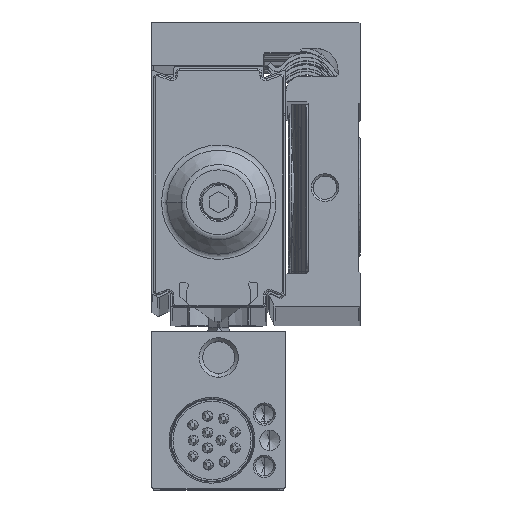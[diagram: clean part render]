
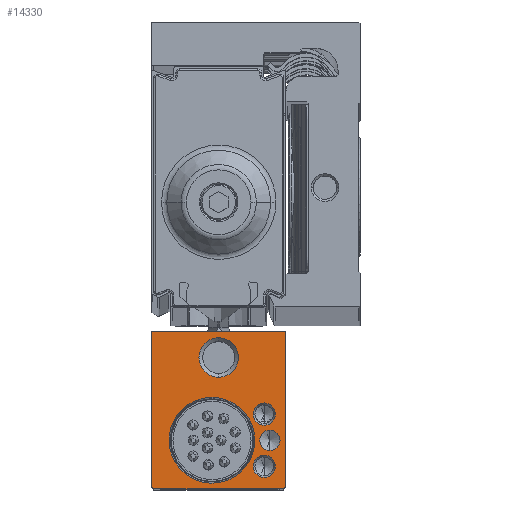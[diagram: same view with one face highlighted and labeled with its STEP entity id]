
A CAD part, top view. The second image highlights one B-rep face of the part: STEP entity #14330.
In plain terms, the highlighted planar face has unit normal (0, 0, 1).
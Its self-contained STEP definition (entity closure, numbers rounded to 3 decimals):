
#870=CARTESIAN_POINT('',(-8.372,-16.475,1.));
#880=VERTEX_POINT('',#870);
#1000=CARTESIAN_POINT('',(-8.372,-19.225,1.));
#1010=VERTEX_POINT('',#1000);
#1040=CARTESIAN_POINT('',(-8.372,-17.85,1.));
#1050=DIRECTION('',(0.,0.,-1.));
#1060=DIRECTION('',(0.,1.,0.));
#1070=AXIS2_PLACEMENT_3D('',#1040,#1050,#1060);
#1080=CIRCLE('',#1070,1.375);
#1090=EDGE_CURVE('',#1010,#880,#1080,.T.);
#2000=CARTESIAN_POINT('',(-6.372,-17.1,1.));
#2010=VERTEX_POINT('',#2000);
#2130=CARTESIAN_POINT('',(-3.372,-17.1,1.));
#2140=VERTEX_POINT('',#2130);
#2170=CARTESIAN_POINT('',(-4.872,-17.1,1.));
#2180=DIRECTION('',(0.,0.,-1.));
#2190=DIRECTION('',(-1.,0.,0.));
#2200=AXIS2_PLACEMENT_3D('',#2170,#2180,#2190);
#2210=CIRCLE('',#2200,1.5);
#2220=EDGE_CURVE('',#2140,#2010,#2210,.T.);
#3150=CARTESIAN_POINT('',(-10.372,-17.1,1.));
#3160=VERTEX_POINT('',#3150);
#3260=CARTESIAN_POINT('',(-13.372,-17.1,1.));
#3270=VERTEX_POINT('',#3260);
#3300=CARTESIAN_POINT('',(-11.872,-17.1,1.));
#3310=DIRECTION('',(0.,0.,-1.));
#3320=DIRECTION('',(-1.,0.,0.));
#3330=AXIS2_PLACEMENT_3D('',#3300,#3310,#3320);
#3340=CIRCLE('',#3330,1.5);
#3350=EDGE_CURVE('',#3270,#3160,#3340,.T.);
#10000=CARTESIAN_POINT('',(6.228,-20.,1.));
#10010=VERTEX_POINT('',#10000);
#10040=CARTESIAN_POINT('',(6.228,0.,1.));
#10050=DIRECTION('',(0.,1.,0.));
#10060=VECTOR('',#10050,1.);
#10070=LINE('',#10040,#10060);
#10080=CARTESIAN_POINT('',(6.228,-2.,1.));
#10090=VERTEX_POINT('',#10080);
#10100=EDGE_CURVE('',#10010,#10090,#10070,.T.);
#13340=CARTESIAN_POINT('',(-14.772,-2.,1.));
#13350=DIRECTION('',(0.,0.,1.));
#13360=DIRECTION('',(-1.,0.,0.));
#13370=AXIS2_PLACEMENT_3D('',#13340,#13350,#13360);
#13380=PLANE('',#13370);
#13390=EDGE_CURVE('',#2010,#2140,#2210,.T.);
#13400=ORIENTED_EDGE('',*,*,#13390,.T.);
#13410=ORIENTED_EDGE('',*,*,#2220,.T.);
#13420=EDGE_LOOP('',(#13410,#13400));
#13430=FACE_BOUND('',#13420,.T.);
#13440=EDGE_CURVE('',#3160,#3270,#3340,.T.);
#13450=ORIENTED_EDGE('',*,*,#13440,.T.);
#13460=ORIENTED_EDGE('',*,*,#3350,.T.);
#13470=EDGE_LOOP('',(#13460,#13450));
#13480=FACE_BOUND('',#13470,.T.);
#13490=EDGE_CURVE('',#880,#1010,#1080,.T.);
#13500=ORIENTED_EDGE('',*,*,#13490,.T.);
#13510=ORIENTED_EDGE('',*,*,#1090,.T.);
#13520=EDGE_LOOP('',(#13510,#13500));
#13530=FACE_BOUND('',#13520,.T.);
#13540=CARTESIAN_POINT('',(-8.372,-10.1,1.));
#13550=DIRECTION('',(0.,0.,1.));
#13560=DIRECTION('',(1.,0.,0.));
#13570=AXIS2_PLACEMENT_3D('',#13540,#13550,#13560);
#13580=CIRCLE('',#13570,5.748);
#13590=CARTESIAN_POINT('',(-3.143,-7.714,1.));
#13600=VERTEX_POINT('',#13590);
#13610=CARTESIAN_POINT('',(-14.12,-10.1,1.));
#13620=VERTEX_POINT('',#13610);
#13630=EDGE_CURVE('',#13600,#13620,#13580,.T.);
#13640=ORIENTED_EDGE('',*,*,#13630,.F.);
#13650=CARTESIAN_POINT('',(-2.624,-10.1,1.));
#13660=VERTEX_POINT('',#13650);
#13670=EDGE_CURVE('',#13620,#13660,#13580,.T.);
#13680=ORIENTED_EDGE('',*,*,#13670,.F.);
#13690=EDGE_CURVE('',#13660,#13600,#13580,.T.);
#13700=ORIENTED_EDGE('',*,*,#13690,.F.);
#13710=EDGE_LOOP('',(#13700,#13680,#13640));
#13720=FACE_BOUND('',#13710,.T.);
#13730=CARTESIAN_POINT('',(2.728,-11.,1.));
#13740=DIRECTION('',(0.,0.,1.));
#13750=DIRECTION('',(1.,0.,0.));
#13760=AXIS2_PLACEMENT_3D('',#13730,#13740,#13750);
#13770=CIRCLE('',#13760,2.65);
#13780=CARTESIAN_POINT('',(2.728,-8.35,1.));
#13790=VERTEX_POINT('',#13780);
#13800=CARTESIAN_POINT('',(0.078,-11.,1.));
#13810=VERTEX_POINT('',#13800);
#13820=EDGE_CURVE('',#13790,#13810,#13770,.T.);
#13830=ORIENTED_EDGE('',*,*,#13820,.F.);
#13840=CARTESIAN_POINT('',(5.378,-11.,1.));
#13850=VERTEX_POINT('',#13840);
#13860=EDGE_CURVE('',#13810,#13850,#13770,.T.);
#13870=ORIENTED_EDGE('',*,*,#13860,.F.);
#13880=EDGE_CURVE('',#13850,#13790,#13770,.T.);
#13890=ORIENTED_EDGE('',*,*,#13880,.F.);
#13900=EDGE_LOOP('',(#13890,#13870,#13830));
#13910=FACE_BOUND('',#13900,.T.);
#13920=ORIENTED_EDGE('',*,*,#10100,.T.);
#13930=CARTESIAN_POINT('',(0.,-20.,1.));
#13940=DIRECTION('',(1.,0.,0.));
#13950=VECTOR('',#13940,1.);
#13960=LINE('',#13930,#13950);
#13970=CARTESIAN_POINT('',(-14.572,-20.,1.));
#13980=VERTEX_POINT('',#13970);
#13990=EDGE_CURVE('',#13980,#10010,#13960,.T.);
#14000=ORIENTED_EDGE('',*,*,#13990,.T.);
#14010=CARTESIAN_POINT('',(-34.572,0.,1.));
#14020=DIRECTION('',(-0.707,0.707,0.));
#14030=VECTOR('',#14020,1.);
#14040=LINE('',#14010,#14030);
#14050=CARTESIAN_POINT('',(-14.872,-19.7,1.));
#14060=VERTEX_POINT('',#14050);
#14070=EDGE_CURVE('',#13980,#14060,#14040,.T.);
#14080=ORIENTED_EDGE('',*,*,#14070,.F.);
#14090=CARTESIAN_POINT('',(-14.872,0.,1.));
#14100=DIRECTION('',(0.,1.,0.));
#14110=VECTOR('',#14100,1.);
#14120=LINE('',#14090,#14110);
#14130=CARTESIAN_POINT('',(-14.872,-2.3,1.));
#14140=VERTEX_POINT('',#14130);
#14150=EDGE_CURVE('',#14060,#14140,#14120,.T.);
#14160=ORIENTED_EDGE('',*,*,#14150,.F.);
#14170=CARTESIAN_POINT('',(-12.572,0.,1.));
#14180=DIRECTION('',(0.707,0.707,0.));
#14190=VECTOR('',#14180,1.);
#14200=LINE('',#14170,#14190);
#14210=CARTESIAN_POINT('',(-14.572,-2.,1.));
#14220=VERTEX_POINT('',#14210);
#14230=EDGE_CURVE('',#14140,#14220,#14200,.T.);
#14240=ORIENTED_EDGE('',*,*,#14230,.F.);
#14250=CARTESIAN_POINT('',(0.,-2.,1.));
#14260=DIRECTION('',(-1.,0.,0.));
#14270=VECTOR('',#14260,1.);
#14280=LINE('',#14250,#14270);
#14290=EDGE_CURVE('',#10090,#14220,#14280,.T.);
#14300=ORIENTED_EDGE('',*,*,#14290,.T.);
#14310=EDGE_LOOP('',(#14300,#14240,#14160,#14080,#14000,#13920));
#14320=FACE_OUTER_BOUND('',#14310,.T.);
#14330=ADVANCED_FACE('',(#13430,#13480,#13530,#13720,#13910,#14320),
#13380,.T.);
